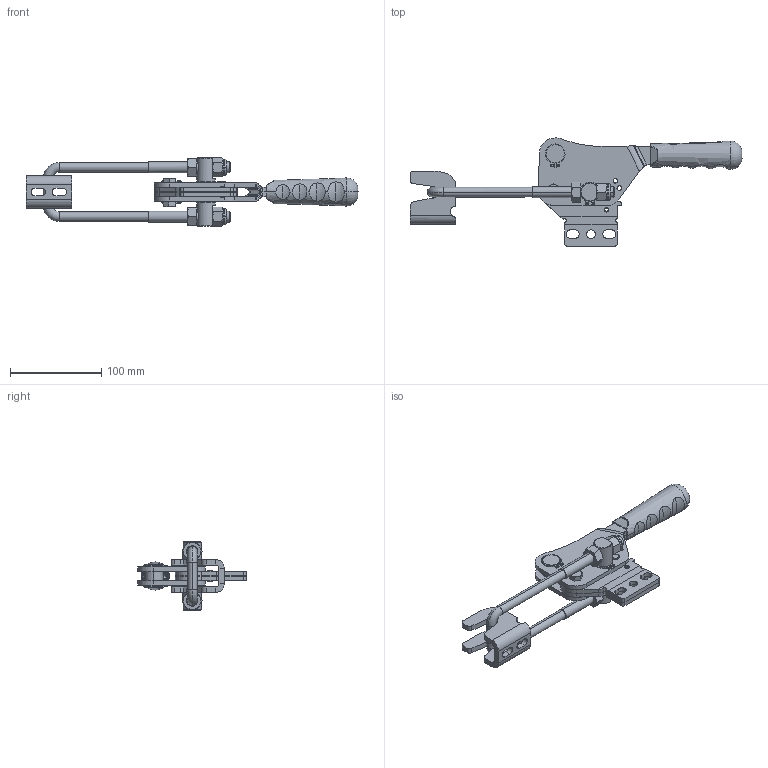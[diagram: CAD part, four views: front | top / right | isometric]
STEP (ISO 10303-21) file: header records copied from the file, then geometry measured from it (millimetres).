
FILE_DESCRIPTION (( 'STEP AP203' ), '1' );
FILE_NAME ('13112_D.STEP', '2022-11-30T12:52:31', ( '' ), ( '' ), 'SwSTEP 2.0', 'SolidWorks 2023', '' );
FILE_SCHEMA (( 'CONFIG_CONTROL_DESIGN' ));
Length unit declared in the file: millimetre
Products named in the file (18): Aynalama13210 Gövde; 5-12-1330659; M8 Somun_Varsayılan; 07210-12; 13210 Gövde; C100_Yeni_Tutamak_10x20_Varsayılan; circlips_o20-uni_7435; hexagon_bolt_jis_b_1180_c_m8_x25_Varsayılan; Karşılık kancası m 12; 1391_Kanca mili_Varsayılan; Aynalama13210 H kolu; M12_U_Kanca_Varsayılan; cap 20 malzeme ; 13112_D; Pim_5x22_Varsayılan; autolock_nut_h_fr_nf_e_25-409_m12_6_1; mandal 2; 13210 H kolu
Assembly tree (21 placements, depth 2):
  13112_D
    13210 Gövde
    13210 H kolu
    Aynalama13210 Gövde
    1391_Kanca mili_Varsayılan
    Pim_5x22_Varsayılan
    M8 Somun_Varsayılan
    M12_U_Kanca_Varsayılan
    cap 20 malzeme 
    Karşılık kancası m 12
    Aynalama13210 H kolu
    07210-12  x2
    5-12-1330659
    autolock_nut_h_fr_nf_e_25-409_m12_6_1  x2
    circlips_o20-uni_7435  x4
    hexagon_bolt_jis_b_1180_c_m8_x25_Varsayılan
    C100_Yeni_Tutamak_10x20_Varsayılan
  mandal 2
Bounding box: 363.61 x 118.51 x 75 mm (x, y, z)
Volume: 271985.9 mm3; surface area: 122477.4 mm2
Topology: 21 solids, 21 shells, 731 faces, 1829 edges, 1163 vertices
Faces by surface type: plane 358, cylinder 243, cone 76, torus 28, bspline 26
Entity records: 23693 total; most frequent: CARTESIAN_POINT 6628, ORIENTED_EDGE 3148, DIRECTION 3108, EDGE_CURVE 1574, AXIS2_PLACEMENT_3D 1124, VERTEX_POINT 1001, VECTOR 860, LINE 860
